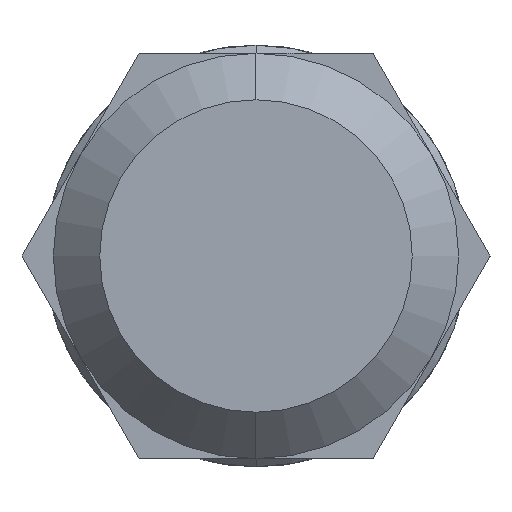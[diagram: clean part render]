
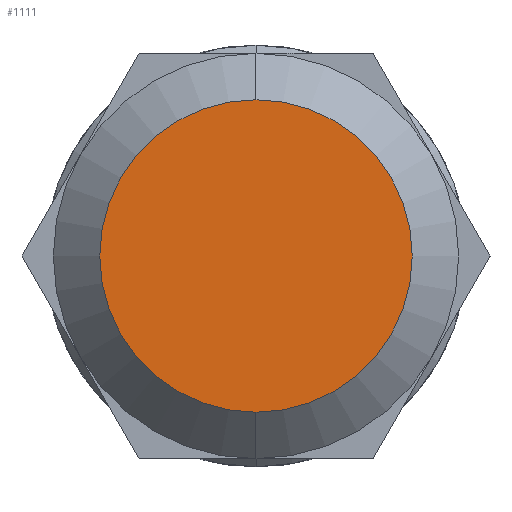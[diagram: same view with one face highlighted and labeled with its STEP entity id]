
A CAD part, left-side view. The second image highlights one B-rep face of the part: STEP entity #1111.
In plain terms, the highlighted planar face has unit normal (-1, 0, 0).
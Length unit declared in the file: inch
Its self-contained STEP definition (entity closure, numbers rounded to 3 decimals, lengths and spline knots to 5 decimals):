
#127 = AXIS2_PLACEMENT_3D ( 'NONE', #1634, #1635, #1636 ) ;
#156 = AXIS2_PLACEMENT_3D ( 'NONE', #1771, #1772, #1773 ) ;
#194 = EDGE_CURVE ( 'NONE', #511, #565, #240, .T. ) ;
#235 = EDGE_CURVE ( 'NONE', #565, #511, #1519, .T. ) ;
#240 = CIRCLE ( 'NONE', #127, 0.3373 ) ;
#312 = AXIS2_PLACEMENT_3D ( 'NONE', #981, #982, #983 ) ;
#476 = EDGE_LOOP ( 'NONE', ( #1331, #1284 ) ) ;
#511 = VERTEX_POINT ( 'NONE', #769 ) ;
#565 = VERTEX_POINT ( 'NONE', #792 ) ;
#769 = CARTESIAN_POINT ( 'NONE',  ( -2.124, 0., -0.3373 ) ) ;
#792 = CARTESIAN_POINT ( 'NONE',  ( -2.124, 0., 0.3373 ) ) ;
#972 = PLANE ( 'NONE',  #312 ) ;
#981 = CARTESIAN_POINT ( 'NONE',  ( -2.124, 0.3373, 0. ) ) ;
#982 = DIRECTION ( 'NONE',  ( -1., 0., 0. ) ) ;
#983 = DIRECTION ( 'NONE',  ( 0., 0., 1. ) ) ;
#1111 = ADVANCED_FACE ( 'NONE', ( #1879 ), #972, .T. ) ;
#1284 = ORIENTED_EDGE ( 'NONE', *, *, #235, .F. ) ;
#1331 = ORIENTED_EDGE ( 'NONE', *, *, #194, .F. ) ;
#1519 = CIRCLE ( 'NONE', #156, 0.3373 ) ;
#1634 = CARTESIAN_POINT ( 'NONE',  ( -2.124, 0., 0. ) ) ;
#1635 = DIRECTION ( 'NONE',  ( 1., 0., 0. ) ) ;
#1636 = DIRECTION ( 'NONE',  ( 0., 0., -1. ) ) ;
#1771 = CARTESIAN_POINT ( 'NONE',  ( -2.124, 0., 0. ) ) ;
#1772 = DIRECTION ( 'NONE',  ( 1., 0., 0. ) ) ;
#1773 = DIRECTION ( 'NONE',  ( 0., 0., -1. ) ) ;
#1879 = FACE_OUTER_BOUND ( 'NONE', #476, .T. ) ;
